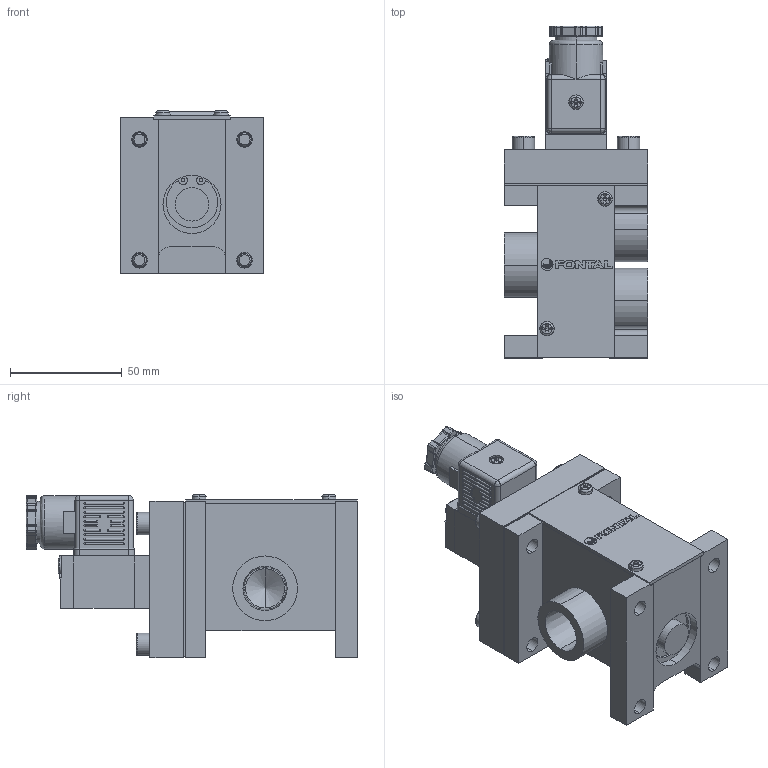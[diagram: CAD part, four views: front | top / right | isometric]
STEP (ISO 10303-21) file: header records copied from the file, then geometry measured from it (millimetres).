
FILE_DESCRIPTION (( 'STEP AP203' ), '1' );
FILE_NAME ('PMS2310#-04-#C#.STEP', '2016-03-09T08:19:01', ( 'Sam Lin' ), ( '' ), 'SwSTEP 2.0', 'SolidWorks 2013', '' );
FILE_SCHEMA (( 'CONFIG_CONTROL_DESIGN' ));
Length unit declared in the file: metre
Products named in the file (16): PM06-C5_1; ISO 4762 M6 x 20; PMS2310-1(04); PM06-C3-M4_1; PMS2308-5; PM10-MARK; PMS2308-6; PMS2310-6; PMS2310#-04-#C#; PM06-C1_1; PM06-C2; PMS2310-2; PM06-C4_1; PMS2310-3; PM06-C6-M3_1; PMS2310-5
Assembly tree (21 placements, depth 2):
  PMS2310#-04-#C#
    PMS2310-2
    PMS2310-3
    PMS2310-5
    ISO 4762 M6 x 20  x4
    PM06-C3-M4_1  x3
    PM10-MARK
    PMS2310-6
    PM06-C1_1
    PM06-C2
    PM06-C4_1
    PM06-C6-M3_1  x2
    PM06-C5_1
    PMS2310-1(04)
    PMS2308-5
    PMS2308-6
Bounding box: 64 x 148.35 x 73.05 mm (x, y, z)
Volume: 325265.6 mm3; surface area: 87859.2 mm2
Topology: 27 solids, 27 shells, 891 faces, 2248 edges, 1318 vertices
Faces by surface type: plane 358, cylinder 264, bspline 198, cone 71
Entity records: 29438 total; most frequent: CARTESIAN_POINT 11864, ORIENTED_EDGE 3352, DIRECTION 3122, EDGE_CURVE 1676, AXIS2_PLACEMENT_3D 1152, VERTEX_POINT 1060, VECTOR 818, LINE 818
